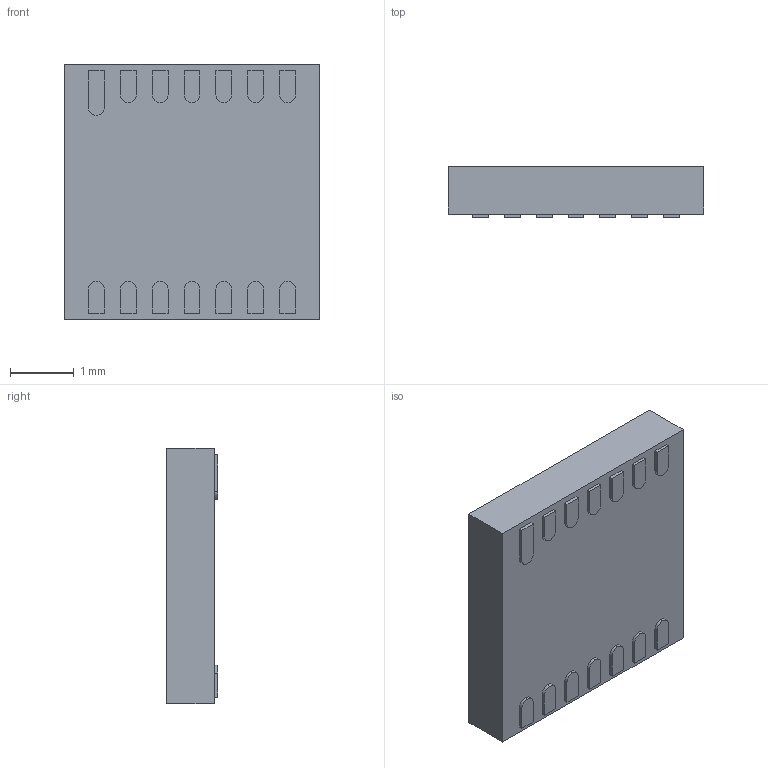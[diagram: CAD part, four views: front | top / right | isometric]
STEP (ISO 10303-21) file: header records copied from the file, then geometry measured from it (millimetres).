
FILE_DESCRIPTION (( 'STEP AP214' ), '1' );
FILE_NAME ( 'PSON50P400X400X80-14.STEP', '2014-04-11T12:31:21', ( '' ), ( '' ), 'FPX Expert 2013', 'PCB Libraries', '' );
FILE_SCHEMA (( 'AUTOMOTIVE_DESIGN' ));
Length unit declared in the file: millimetre
Products named in the file (1): PSON50P400X400X80-14
Bounding box: 4 x 0.8 x 4 mm (x, y, z)
Volume: 12.1 mm3; surface area: 48.5 mm2
Topology: 15 solids, 15 shells, 107 faces, 228 edges, 152 vertices
Faces by surface type: plane 77, cylinder 28, torus 2
Entity records: 3363 total; most frequent: DIRECTION 506, CARTESIAN_POINT 488, ORIENTED_EDGE 456, EDGE_CURVE 228, AXIS2_PLACEMENT_3D 170, VECTOR 166, LINE 166, VERTEX_POINT 152
